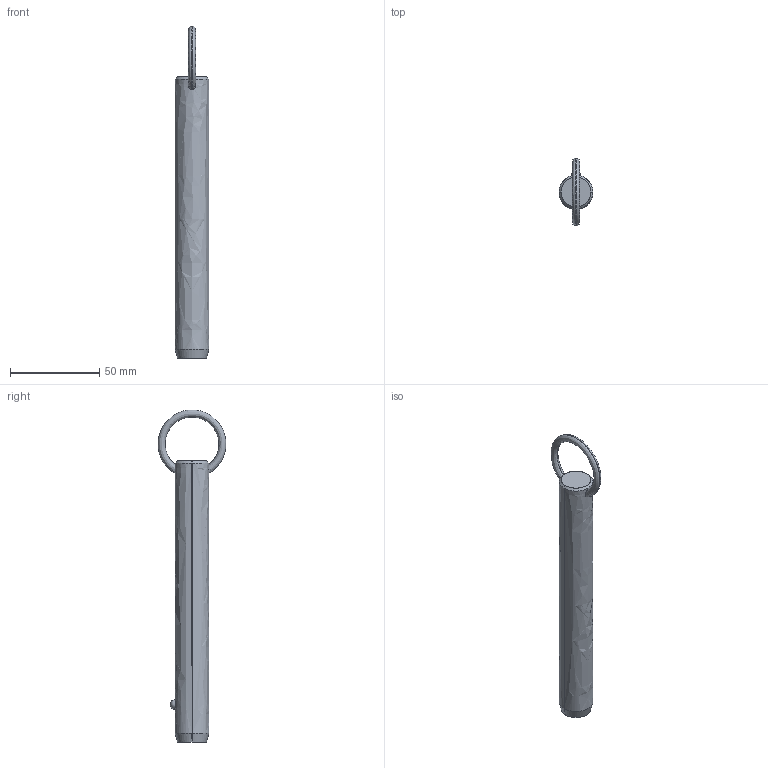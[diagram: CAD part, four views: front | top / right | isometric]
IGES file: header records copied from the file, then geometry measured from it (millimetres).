
Start section: SolidWorks IGES file using analytic representation for surfaces
Global section: file name: C:\Users\liam_\OneDrive\Documents\WORK\Work for WixRoyd\Job Files\J-00019 - Matt Davis CAD Checking\04. CAD Drawings\automotion20190605\P1250.2_v2\P1250.2_v2_20190729_IGES\P1250.075-490.igs; native system: SolidWorks 2017; preprocessor: SolidWorks 2017; author: liam_; date: 190729.235609; units: millimetre
Bounding box: 19 x 38.09 x 186.29 mm (x, y, z)
Surface area: 10946 mm2 (no closed solid volume)
Topology: 0 solids, 0 shells, 12 faces, 294 edges, 292 vertices
Faces by surface type: revolution 8, bspline 4
